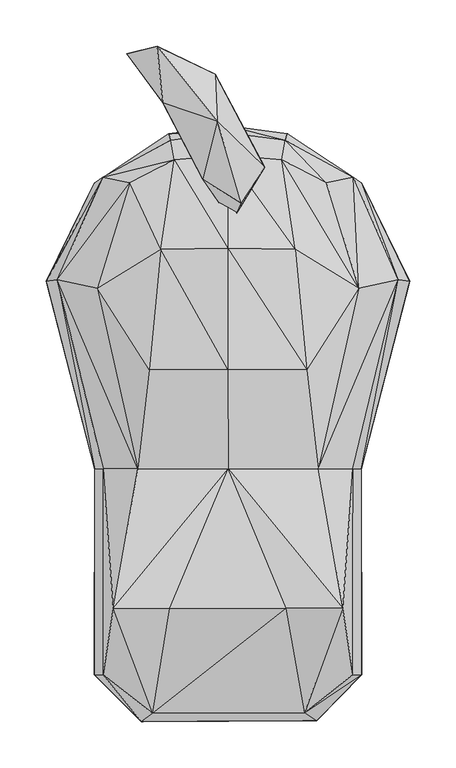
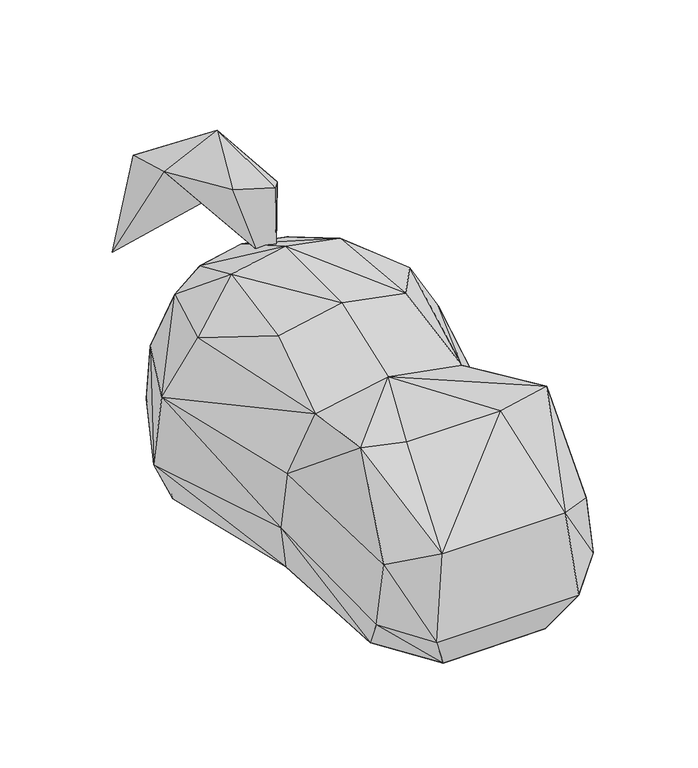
"""IFC4 building model written with IfcOpenShell, lengths in millimetres: geographic element geometry, Enscape AssetDefinition - Toy 017 Plushy : Enscape AssetDefinition - Toy 017 Plushy."""

import ifcopenshell
import ifcopenshell.guid

model = None  # the IFC model being written
_history = None  # IfcOwnerHistory: only IFC2X3 demands one
_inside = {}  # id of a spatial element -> (the spatial element, [elements in it])
_under = {}  # id of a project, library or spatial element -> (it, [spatial elements below it])
_declared = {}  # id of a project -> (the project, [libraries it declares])
_typed = {}  # id of a type object -> (the type object, [elements of that type])
_made_of = {}  # id of a material, layer set ... -> (it, [elements and type objects made of it])


def new_model(schema):
    """Start an empty IFC model of exactly this schema.

    Asked for "IFC4X3", IfcOpenShell would pick the latest addendum, in which some entities
    have other attributes; the version numbers below select the first issue.
    IFC2X3 requires an IfcOwnerHistory on every rooted entity: one is made here for all.
    """
    global model, _history
    if schema == "IFC4X3":
        model = ifcopenshell.file(schema_version=(4, 3, 0, 0))
    else:
        model = ifcopenshell.file(schema=schema)
    _inside.clear()
    _under.clear()
    _declared.clear()
    _typed.clear()
    _made_of.clear()
    _history = None
    if model.schema == "IFC2X3":
        org = make("IfcOrganization", Name="unknown")
        user = make(
            "IfcPersonAndOrganization",
            ThePerson=make("IfcPerson", FamilyName="unknown"),
            TheOrganization=org,
        )
        app = make(
            "IfcApplication",
            ApplicationDeveloper=org,
            Version="unknown",
            ApplicationFullName="unknown",
            ApplicationIdentifier="unknown",
        )
        _history = make(
            "IfcOwnerHistory",
            OwningUser=user,
            OwningApplication=app,
            ChangeAction="ADDED",
            CreationDate=0,
        )
    return model


def make(cls, **values):
    """One entity of the class cls with the attributes given. An attribute that is None is left unset."""
    return model.create_entity(
        cls, **{name: value for name, value in values.items() if value is not None}
    )


def rooted(cls, **values):
    """An entity with a GlobalId (a new one), such as an element, a storey or a relation."""
    return make(cls, GlobalId=ifcopenshell.guid.new(), OwnerHistory=_history, **values)


def si_unit(unit_type, name, prefix=None):
    """IfcSIUnit, for example si_unit("LENGTHUNIT", "METRE", prefix="MILLI")."""
    return make("IfcSIUnit", UnitType=unit_type, Prefix=prefix, Name=name)


def assignment(units):
    """IfcUnitAssignment: the units of a project."""
    return None if units is None else make("IfcUnitAssignment", Units=units)


def point(xyz):
    """IfcCartesianPoint."""
    return None if xyz is None else make("IfcCartesianPoint", Coordinates=xyz)


def direction(xyz):
    """IfcDirection."""
    return None if xyz is None else make("IfcDirection", DirectionRatios=xyz)


def frame(location, z_axis=None, x_axis=None):
    """IfcAxis2Placement3D, a coordinate frame: its origin and axes. An axis left out is left unset."""
    return make(
        "IfcAxis2Placement3D",
        Location=point(location),
        Axis=direction(z_axis),
        RefDirection=direction(x_axis),
    )


def origin():
    """The frame at (0, 0, 0) with its axes left unset."""
    return frame((0.0, 0.0, 0.0))


def place(relative_to, where):
    """IfcLocalPlacement: puts the frame where relative to a parent placement (None: the world)."""
    return make(
        "IfcLocalPlacement", PlacementRelTo=relative_to, RelativePlacement=where
    )


def context(
    kind, dimensions, precision=None, world=None, true_north=None, identifier=None
):
    """IfcGeometricRepresentationContext, for example the 3D "Model" context."""
    return make(
        "IfcGeometricRepresentationContext",
        ContextIdentifier=identifier,
        ContextType=kind,
        CoordinateSpaceDimension=dimensions,
        Precision=precision,
        WorldCoordinateSystem=world,
        TrueNorth=true_north,
    )


def project(units=None, contexts=None):
    """IfcProject with its units and contexts."""
    return rooted(
        "IfcProject",
        Name="project",
        RepresentationContexts=contexts,
        UnitsInContext=assignment(units),
    )


def spatial(cls, under=None, at=None, **own):
    """A site, building, storey or space (cls), placed at a placement, below another one or the project."""
    s = rooted(cls, ObjectPlacement=at, **own)
    if under is not None:
        _under.setdefault(under.id(), (under, []))[1].append(s)
    return s


def point_list(points):
    """IfcCartesianPointList2D or 3D."""
    cls = (
        "IfcCartesianPointList2D" if len(points[0]) == 2 else "IfcCartesianPointList3D"
    )
    return make(cls, CoordList=points)


def triangles(points, corners, closed=None, point_numbers=None):
    """IfcTriangulatedFaceSet: each triangle names its three corners, points numbered from 1."""
    return make(
        "IfcTriangulatedFaceSet",
        Coordinates=point_list(points),
        Closed=closed,
        CoordIndex=corners,
        PnIndex=point_numbers,
    )


def shape(context_of_items, identifier, shape_type, items):
    """IfcShapeRepresentation: the items that make up one representation, for example the "Body"."""
    return make(
        "IfcShapeRepresentation",
        ContextOfItems=context_of_items,
        RepresentationIdentifier=identifier,
        RepresentationType=shape_type,
        Items=items,
    )


def source(mapping_origin, context_of_items, identifier, shape_type, items):
    """IfcRepresentationMap: a shape defined once, which mapped items show again and again."""
    return make(
        "IfcRepresentationMap",
        MappingOrigin=mapping_origin,
        MappedRepresentation=shape(context_of_items, identifier, shape_type, items),
    )


def transform(
    local_origin,
    x_axis=None,
    y_axis=None,
    z_axis=None,
    scale=None,
    scale2=None,
    scale3=None,
    uniform=True,
):
    """IfcCartesianTransformationOperator3D, or its non-uniform kind. x_axis, y_axis, z_axis: its Axis1, 2, 3."""
    if uniform:
        return make(
            "IfcCartesianTransformationOperator3D",
            Axis1=direction(x_axis),
            Axis2=direction(y_axis),
            LocalOrigin=point(local_origin),
            Scale=scale,
            Axis3=direction(z_axis),
        )
    return make(
        "IfcCartesianTransformationOperator3DnonUniform",
        Axis1=direction(x_axis),
        Axis2=direction(y_axis),
        LocalOrigin=point(local_origin),
        Scale=scale,
        Axis3=direction(z_axis),
        Scale2=scale2,
        Scale3=scale3,
    )


def mapped(mapping_source, mapping_target):
    """IfcMappedItem: shows the shape of a source again, moved by a transform."""
    return make(
        "IfcMappedItem", MappingSource=mapping_source, MappingTarget=mapping_target
    )


def made_of(thing, what):
    """Note that an element or type object is made of a material, layer set ...; save() writes the relation."""
    if what is not None:
        _made_of.setdefault(what.id(), (what, []))[1].append(thing)
    return thing


def element(
    cls,
    number,
    at=None,
    inside=None,
    cuts=None,
    type_object=None,
    material=None,
    context=None,
    identifier="Body",
    shape_type=None,
    held_by="IfcProductDefinitionShape",
    body=None,
    shapes=None,
    **own,
):
    """One element of the class cls, such as IfcWall. Its Tag is "e" and its number.

    at: its placement. inside: the storey or other place that contains it. cuts: it is an
    opening in that element (IfcRelVoidsElement). A single representation is given by context,
    identifier, shape_type and body (its items); several are given by shapes. held_by: the class
    of the entity that holds the representations. save() writes the other relations.
    """
    e = rooted(cls, Tag="e%d" % number, ObjectPlacement=at, **own)
    if body is not None:
        shapes = [shape(context, identifier, shape_type, body)]
    if shapes is not None:
        e.Representation = make(held_by, Representations=shapes)
    if inside is not None:
        _inside.setdefault(inside.id(), (inside, []))[1].append(e)
    if cuts is not None:
        rooted(
            "IfcRelVoidsElement", RelatingBuildingElement=cuts, RelatedOpeningElement=e
        )
    if type_object is not None:
        _typed.setdefault(type_object.id(), (type_object, []))[1].append(e)
    return made_of(e, material)


def aggregate(whole, parts):
    """IfcRelAggregates: a whole, such as a stair, and the parts it consists of."""
    return rooted("IfcRelAggregates", RelatingObject=whole, RelatedObjects=parts)


def save(model, path):
    """Write the relations noted so far, then the file.

    IfcRelAggregates (storeys below a building ...), IfcRelContainedInSpatialStructure (elements
    in a storey), IfcRelDefinesByType, IfcRelAssociatesMaterial and IfcRelDeclares: one each for
    every whole, place, type object, material and project.
    """
    for whole, parts in _under.values():
        aggregate(whole, parts)
    for where, things in _inside.values():
        rooted(
            "IfcRelContainedInSpatialStructure",
            RelatedElements=things,
            RelatingStructure=where,
        )
    for kind, things in _typed.values():
        rooted("IfcRelDefinesByType", RelatedObjects=things, RelatingType=kind)
    for what, things in _made_of.values():
        rooted("IfcRelAssociatesMaterial", RelatedObjects=things, RelatingMaterial=what)
    for by, libraries in _declared.values():
        rooted("IfcRelDeclares", RelatingContext=by, RelatedDefinitions=libraries)
    model.write(path)


def geographic_element_f6bf35da(model_context):
    return source(origin(), model_context, "Body", "Tessellation", [
        triangles([(-11.7130001, 352.994006, 370.167994), (39.3560007, 303.5589965, 309.6390215), (-70.0789983, 373.1929911, 319.977998), (-76.1220024, 433.7469984, 308.6240035), (-27.1259991, 290.6500098, 329.9209957), (-13.6960004, 403.9550305, 292.829001), (-23.3670012, 348.4629962, 281.5369941), (-108.8489973, 425.6550141, 188.8439964), (-9.4060006, 265.1970031, 254.5390054), (9.5819994, 254.082002, 257.3849799), (14.4430001, 265.0209964, 333.6680054), (1.256, 268.1330157, 247.2359991), (-134.5130013, -20.6210001, 157.379002), (-183.5340008, 182.4680048, 158.7090081), (-93.2209996, -293.011003, 70.6999951), (-134.4680004, -242.3949974, 164.1999883), (-80.7520023, -284.3079914, 186.5280041), (-123.4500047, -171.049007, 281.0890018), (82.8060012, -283.4390037, 186.1879994), (62.4930014, -171.049007, 268.007006), (95.6249953, -292.1150003, 70.8469973), (-66.3440019, -262.1330004, 14.3879992), (140.7449974, -222.3480015, 45.0539996), (68.7140016, -262.0939948, 15.3310001), (-143.9449928, -242.4370006, 83.4349962), (-69.1260041, -20.9660009, -0.698), (71.3049999, -20.9660009, -0.063), (-133.8869948, -17.0959995, 24.4430007), (-140.7449974, -222.3480015, 45.0539996), (99.7420042, 201.35001, -7.3670001), (-97.1139941, 201.3889974, -7.9229993), (-61.9129996, 312.0009776, 22.4869995), (61.9129996, 312.0009776, 22.4869995), (-143.5589971, -21.3530003, 85.2879991), (-195.4369988, 180.7779917, 69.0859993), (-134.9689964, 293.2040145, 146.8719944), (-175.7780062, 170.7510056, 20.8310005), (-141.453993, 271.4459857, 39.0639991), (-0.001, 348.3470149, 80.9549968), (-144.0979995, 286.5920089, 79.8320003), (-63.837001, 340.0419986, 82.454006), (-105.8149983, 286.870989, 212.8269984), (-61.7270008, 332.7220239, 173.3109874), (0.001, 316.7059957, 228.7840004), (0.006, 340.9370021, 175.2760019), (58.044999, 312.0009776, 220.6439994), (61.7409988, 332.7800145, 173.126006), (140.7150028, 173.5190053, 232.7549971), (63.837001, 340.0419986, 82.454006), (105.8149983, 286.870989, 212.8269984), (134.9689964, 293.2040145, 146.8719944), (72.1969967, 215.293999, 272.1549904), (84.7510042, 85.848003, 269.3470041), (0.018, 86.4409992, 285.3220101), (97.3049981, -20.8220008, 228.5579967), (0.033, -20.8080004, 246.5340071), (-84.7150053, 85.9310012, 269.3369938), (0.004, 216.4640038, 286.1300095), (-62.4930014, -171.049007, 268.007006), (123.4500047, -171.049007, 281.0890018), (-140.7150028, 173.5190053, 232.7549971), (-72.1900022, 215.431, 272.1390212), (-58.0459982, 312.0009776, 220.6439994), (-97.2390047, -20.7930009, 228.5539999), (134.4680004, -242.3949974, 164.1999883), (134.5770054, -20.6210001, 157.379002), (143.9449928, -242.4370006, 83.4349962), (143.6229921, -21.3530003, 85.2879991), (133.9520072, -17.0959995, 24.4430007), (183.5340008, 182.4680048, 158.7090081), (144.0979995, 286.5920089, 79.8320003), (195.4369988, 180.7779917, 69.0859993), (141.453993, 271.4459857, 39.0639991), (175.7780062, 170.7510056, 20.8310005)], [[49, 51, 71], [33, 71, 73], [33, 49, 71], [72, 69, 74], [73, 72, 74], [73, 71, 72], [71, 70, 72], [71, 51, 70], [72, 68, 69], [70, 68, 72], [68, 23, 69], [68, 67, 23], [70, 66, 68], [66, 67, 68], [67, 65, 19], [66, 65, 67], [19, 60, 20], [66, 60, 65], [65, 60, 19], [64, 61, 14], [14, 61, 42], [63, 62, 58], [42, 62, 63], [42, 61, 62], [62, 61, 57], [61, 64, 57], [20, 60, 56], [59, 20, 56], [57, 64, 56], [62, 54, 58], [62, 57, 54], [57, 56, 54], [54, 56, 55], [70, 55, 66], [66, 55, 60], [56, 60, 55], [58, 54, 53], [54, 55, 53], [58, 53, 52], [52, 53, 48], [53, 55, 48], [70, 48, 55], [51, 48, 70], [51, 50, 48], [49, 47, 51], [47, 50, 51], [46, 48, 50], [46, 52, 48], [47, 46, 50], [63, 58, 44], [44, 52, 46], [44, 58, 52], [45, 46, 47], [45, 44, 46], [39, 47, 49], [39, 45, 47], [39, 49, 33], [41, 45, 39], [43, 44, 45], [43, 63, 44], [41, 43, 45], [36, 63, 43], [36, 42, 63], [14, 42, 36], [40, 43, 41], [40, 36, 43], [38, 40, 41], [32, 41, 39], [33, 32, 39], [38, 41, 32], [37, 40, 38], [37, 38, 32], [35, 36, 40], [35, 14, 36], [37, 35, 40], [14, 35, 34], [28, 35, 37], [28, 34, 35], [28, 37, 31], [31, 32, 33], [37, 32, 31], [31, 33, 30], [30, 73, 74], [30, 33, 73], [27, 74, 69], [27, 30, 74], [26, 30, 27], [26, 31, 30], [28, 31, 26], [29, 28, 26], [29, 34, 28], [29, 25, 34], [29, 26, 22], [22, 26, 27], [22, 25, 29], [24, 69, 23], [24, 27, 69], [22, 27, 24], [23, 21, 24], [23, 67, 21], [67, 19, 21], [22, 15, 25], [24, 15, 22], [24, 21, 15], [17, 19, 20], [20, 59, 17], [21, 17, 15], [21, 19, 17], [56, 18, 59], [59, 18, 17], [64, 18, 56], [15, 16, 25], [15, 17, 16], [17, 18, 16], [14, 34, 13], [18, 13, 16], [18, 64, 13], [64, 14, 13], [13, 25, 16], [13, 34, 25], [12, 2, 10], [7, 2, 12], [7, 12, 9], [9, 10, 11], [10, 2, 11], [11, 5, 9], [8, 7, 3], [3, 9, 5], [3, 7, 9], [8, 3, 4], [6, 2, 7], [8, 4, 6], [7, 8, 6], [2, 1, 11], [6, 4, 1], [3, 5, 1], [5, 11, 1], [3, 1, 4], [1, 2, 6]], closed=False),
    ])


if __name__ == "__main__":
    model = new_model("IFC4")
    model_context = context("Model", 3, world=origin())
    ifc_project = project(units=[si_unit("LENGTHUNIT", "METRE", prefix="MILLI")], contexts=[model_context])
    site = spatial("IfcSite", under=ifc_project)
    building = spatial("IfcBuilding", under=site)
    placement = place(None, origin())
    geographic_element_shape = geographic_element_f6bf35da(model_context)
    element("IfcGeographicElement", 1, ObjectType="Enscape AssetDefinition - Toy 017 Plushy : Enscape AssetDefinition - Toy 017 Plushy", at=placement, inside=building, context=model_context, shape_type="MappedRepresentation", body=[
        mapped(geographic_element_shape, transform((0.0, 0.0, 0.0), x_axis=(1.0, 0.0, 0.0), y_axis=(0.0, 1.0, 0.0), z_axis=(0.0, 0.0, 1.0))),
    ])
    save(model, "model.ifc")
